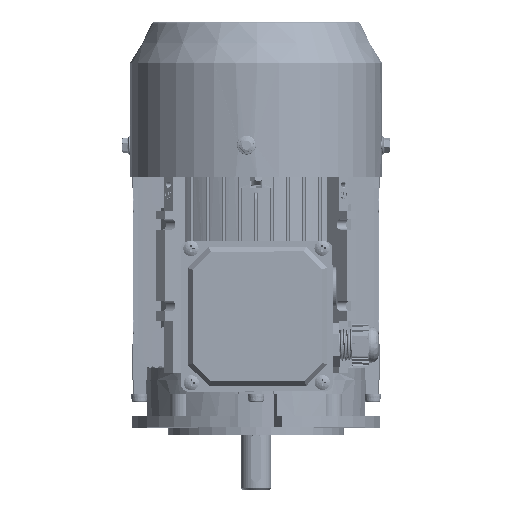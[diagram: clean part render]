
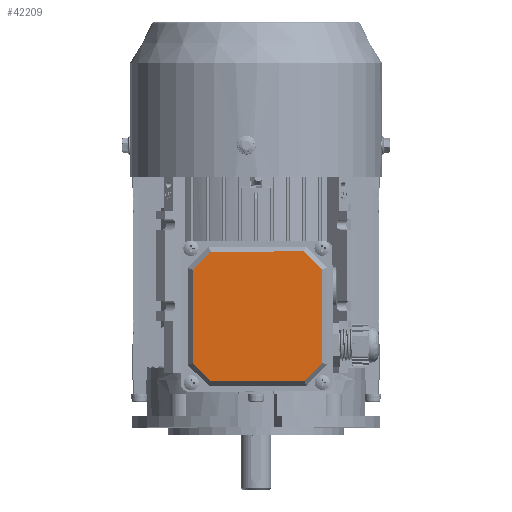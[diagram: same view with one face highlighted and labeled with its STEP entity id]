
A CAD part, top view. The second image highlights one B-rep face of the part: STEP entity #42209.
In plain terms, the highlighted planar face has unit normal (0, 0, 1) as drawn and (0, 1, 0) by its records, which use the part's own axes.
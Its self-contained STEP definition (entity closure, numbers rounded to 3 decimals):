
#201 = CARTESIAN_POINT ( 'NONE',  ( -40.5, 6., -29.15 ) ) ;
#377 = CARTESIAN_POINT ( 'NONE',  ( 29.15, 6., 40.5 ) ) ;
#494 = VERTEX_POINT ( 'NONE', #71258 ) ;
#3121 = DIRECTION ( 'NONE',  ( 0., -1., 0. ) ) ;
#5812 = ORIENTED_EDGE ( 'NONE', *, *, #53305, .T. ) ;
#7399 = FACE_OUTER_BOUND ( 'NONE', #94025, .T. ) ;
#8087 = CARTESIAN_POINT ( 'NONE',  ( 40.5, 6., -29.15 ) ) ;
#9696 = DIRECTION ( 'NONE',  ( -0.707, 0., -0.707 ) ) ;
#16066 = ORIENTED_EDGE ( 'NONE', *, *, #19080, .T. ) ;
#16414 = CARTESIAN_POINT ( 'NONE',  ( 34.825, 6., 34.825 ) ) ;
#18715 = VECTOR ( 'NONE', #41790, 1000. ) ;
#19080 = EDGE_CURVE ( 'NONE', #25008, #494, #74627, .T. ) ;
#22420 = VECTOR ( 'NONE', #33078, 1000. ) ;
#25008 = VERTEX_POINT ( 'NONE', #90197 ) ;
#25842 = VECTOR ( 'NONE', #35714, 1000. ) ;
#27767 = DIRECTION ( 'NONE',  ( 0.707, 0., -0.707 ) ) ;
#28357 = DIRECTION ( 'NONE',  ( 0., 0., -1. ) ) ;
#29340 = VECTOR ( 'NONE', #27767, 1000. ) ;
#29731 = VERTEX_POINT ( 'NONE', #47509 ) ;
#30428 = CARTESIAN_POINT ( 'NONE',  ( 0., 6., 40.5 ) ) ;
#31950 = CARTESIAN_POINT ( 'NONE',  ( 34.825, 6., -34.825 ) ) ;
#33078 = DIRECTION ( 'NONE',  ( 0.707, 0., 0.707 ) ) ;
#35714 = DIRECTION ( 'NONE',  ( -0.707, 0., 0.707 ) ) ;
#37935 = VERTEX_POINT ( 'NONE', #135438 ) ;
#41790 = DIRECTION ( 'NONE',  ( 1., 0., 0. ) ) ;
#42209 = ADVANCED_FACE ( 'NONE', ( #7399 ), #127086, .F. ) ;
#42383 = VECTOR ( 'NONE', #28357, 1000. ) ;
#45789 = DIRECTION ( 'NONE',  ( 0., 0., 1. ) ) ;
#45817 = EDGE_CURVE ( 'NONE', #29731, #37935, #142532, .T. ) ;
#47509 = CARTESIAN_POINT ( 'NONE',  ( -40.5, 6., 29.15 ) ) ;
#47630 = CARTESIAN_POINT ( 'NONE',  ( 0., 6., -40.5 ) ) ;
#52354 = LINE ( 'NONE', #30428, #18715 ) ;
#53282 = LINE ( 'NONE', #124797, #109773 ) ;
#53305 = EDGE_CURVE ( 'NONE', #80560, #25008, #68449, .T. ) ;
#56552 = EDGE_CURVE ( 'NONE', #137309, #126458, #59491, .T. ) ;
#59137 = ORIENTED_EDGE ( 'NONE', *, *, #56552, .T. ) ;
#59491 = LINE ( 'NONE', #16414, #29340 ) ;
#59513 = CARTESIAN_POINT ( 'NONE',  ( 0., 6., 0. ) ) ;
#63151 = VERTEX_POINT ( 'NONE', #201 ) ;
#68449 = LINE ( 'NONE', #31950, #125009 ) ;
#70919 = AXIS2_PLACEMENT_3D ( 'NONE', #59513, #3121, #82136 ) ;
#71258 = CARTESIAN_POINT ( 'NONE',  ( -29.15, 6., -40.5 ) ) ;
#74627 = LINE ( 'NONE', #47630, #131178 ) ;
#80560 = VERTEX_POINT ( 'NONE', #8087 ) ;
#82136 = DIRECTION ( 'NONE',  ( 0., 0., -1. ) ) ;
#82554 = CARTESIAN_POINT ( 'NONE',  ( 40.5, 6., 29.15 ) ) ;
#85905 = LINE ( 'NONE', #114735, #25842 ) ;
#89341 = CARTESIAN_POINT ( 'NONE',  ( -34.825, 6., 34.825 ) ) ;
#90197 = CARTESIAN_POINT ( 'NONE',  ( 29.15, 6., -40.5 ) ) ;
#91843 = ORIENTED_EDGE ( 'NONE', *, *, #112181, .T. ) ;
#92581 = ORIENTED_EDGE ( 'NONE', *, *, #45817, .T. ) ;
#93124 = ORIENTED_EDGE ( 'NONE', *, *, #140410, .T. ) ;
#94025 = EDGE_LOOP ( 'NONE', ( #59137, #91843, #5812, #16066, #99234, #93124, #92581, #101179 ) ) ;
#97679 = EDGE_CURVE ( 'NONE', #37935, #137309, #52354, .T. ) ;
#99234 = ORIENTED_EDGE ( 'NONE', *, *, #116489, .T. ) ;
#101179 = ORIENTED_EDGE ( 'NONE', *, *, #97679, .T. ) ;
#109773 = VECTOR ( 'NONE', #45789, 1000. ) ;
#112181 = EDGE_CURVE ( 'NONE', #126458, #80560, #132504, .T. ) ;
#114735 = CARTESIAN_POINT ( 'NONE',  ( -34.825, 6., -34.825 ) ) ;
#116489 = EDGE_CURVE ( 'NONE', #494, #63151, #85905, .T. ) ;
#124797 = CARTESIAN_POINT ( 'NONE',  ( -40.5, 6., 0. ) ) ;
#125009 = VECTOR ( 'NONE', #9696, 1000. ) ;
#126458 = VERTEX_POINT ( 'NONE', #82554 ) ;
#127086 = PLANE ( 'NONE',  #70919 ) ;
#129608 = CARTESIAN_POINT ( 'NONE',  ( 40.5, 6., 0. ) ) ;
#131178 = VECTOR ( 'NONE', #137926, 1000. ) ;
#132504 = LINE ( 'NONE', #129608, #42383 ) ;
#135438 = CARTESIAN_POINT ( 'NONE',  ( -29.15, 6., 40.5 ) ) ;
#137309 = VERTEX_POINT ( 'NONE', #377 ) ;
#137926 = DIRECTION ( 'NONE',  ( -1., 0., 0. ) ) ;
#140410 = EDGE_CURVE ( 'NONE', #63151, #29731, #53282, .T. ) ;
#142532 = LINE ( 'NONE', #89341, #22420 ) ;
